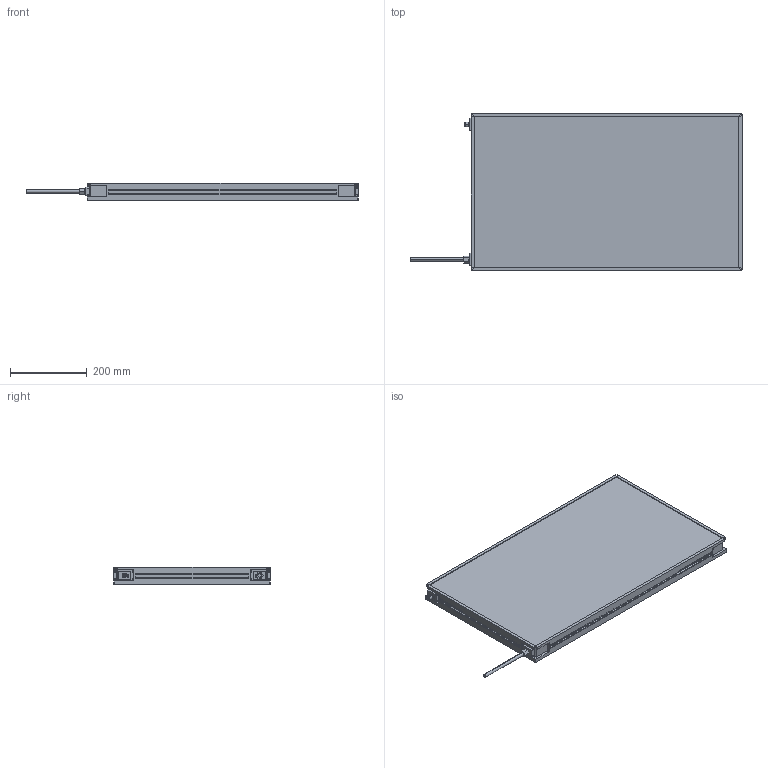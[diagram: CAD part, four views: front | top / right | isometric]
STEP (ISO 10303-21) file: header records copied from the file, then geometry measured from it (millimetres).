
FILE_DESCRIPTION (( 'STEP AP214' ), '1' );
FILE_NAME ('MBACK-xxxx-xxx-M1A2_CLIENT400x700.STEP', '2022-04-01T11:39:07', ( '' ), ( '' ), 'SwSTEP 2.0', 'SolidWorks 2020', '' );
FILE_SCHEMA (( 'AUTOMOTIVE_DESIGN' ));
Length unit declared in the file: millimetre
Products named in the file (1): MBACK-xxxx-xxx-M1A2_CLIENT400x700
Bounding box: 867.4 x 408 x 45.5 mm (x, y, z)
Volume: 12000036.9 mm3; surface area: 731810.7 mm2
Topology: 1 solids, 1 shells, 470 faces, 1210 edges, 804 vertices
Faces by surface type: plane 265, cylinder 117, bspline 80, cone 8
Entity records: 18046 total; most frequent: CARTESIAN_POINT 6837, ORIENTED_EDGE 2420, DIRECTION 2082, EDGE_CURVE 1210, VERTEX_POINT 804, LINE 800, VECTOR 800, AXIS2_PLACEMENT_3D 641
